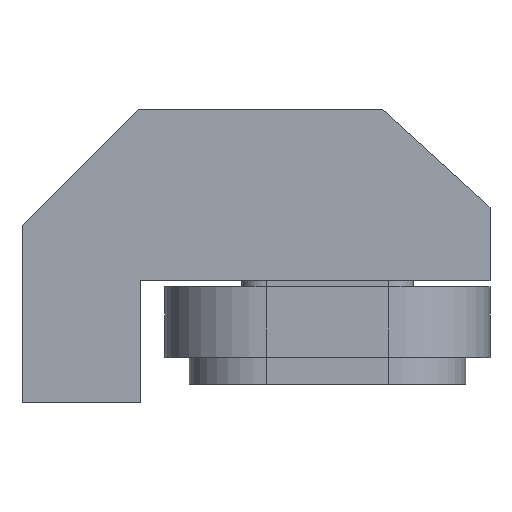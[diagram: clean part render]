
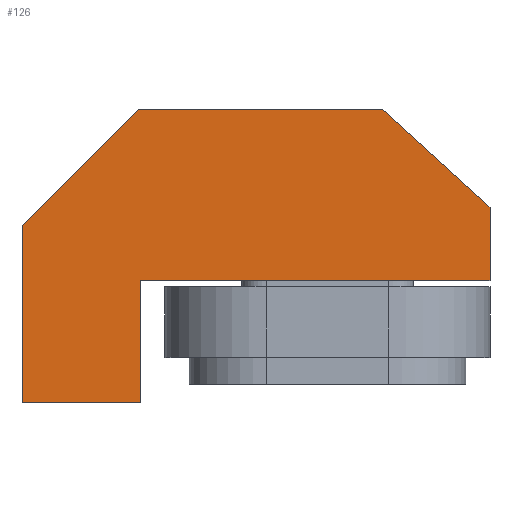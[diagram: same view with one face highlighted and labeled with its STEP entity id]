
A CAD part, top view. The second image highlights one B-rep face of the part: STEP entity #126.
In plain terms, the highlighted planar face has unit normal (0, 0, 1).
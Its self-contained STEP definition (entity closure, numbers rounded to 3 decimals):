
#126=ADVANCED_FACE('',(#197),#198,.T.);
#197=FACE_OUTER_BOUND('',#321,.T.);
#198=PLANE('',#322);
#321=EDGE_LOOP('',(#485,#486,#487,#488,#489,#490,#491,#492));
#322=AXIS2_PLACEMENT_3D('',#493,#494,#495);
#485=ORIENTED_EDGE('',*,*,#867,.F.);
#486=ORIENTED_EDGE('',*,*,#889,.F.);
#487=ORIENTED_EDGE('',*,*,#886,.F.);
#488=ORIENTED_EDGE('',*,*,#883,.F.);
#489=ORIENTED_EDGE('',*,*,#880,.F.);
#490=ORIENTED_EDGE('',*,*,#877,.F.);
#491=ORIENTED_EDGE('',*,*,#874,.F.);
#492=ORIENTED_EDGE('',*,*,#871,.F.);
#493=CARTESIAN_POINT('',(-82.01,131.047,103.0));
#494=DIRECTION('',(0.0,0.0,1.0));
#495=DIRECTION('',(1.0,0.0,0.0));
#867=EDGE_CURVE('',#993,#994,#995,.T.);
#871=EDGE_CURVE('',#994,#1001,#1002,.T.);
#874=EDGE_CURVE('',#1001,#1006,#1007,.T.);
#877=EDGE_CURVE('',#1006,#1011,#1012,.T.);
#880=EDGE_CURVE('',#1011,#1016,#1017,.T.);
#883=EDGE_CURVE('',#1016,#1021,#1022,.T.);
#886=EDGE_CURVE('',#1021,#1026,#1027,.T.);
#889=EDGE_CURVE('',#1026,#993,#1031,.T.);
#993=VERTEX_POINT('',#1203);
#994=VERTEX_POINT('',#1204);
#995=LINE('',#1205,#1206);
#1001=VERTEX_POINT('',#1215);
#1002=LINE('',#1216,#1217);
#1006=VERTEX_POINT('',#1223);
#1007=LINE('',#1224,#1225);
#1011=VERTEX_POINT('',#1231);
#1012=LINE('',#1232,#1233);
#1016=VERTEX_POINT('',#1239);
#1017=LINE('',#1240,#1241);
#1021=VERTEX_POINT('',#1247);
#1022=LINE('',#1248,#1249);
#1026=VERTEX_POINT('',#1255);
#1027=LINE('',#1256,#1257);
#1031=LINE('',#1263,#1264);
#1203=CARTESIAN_POINT('',(-250.0,145.0,103.0));
#1204=CARTESIAN_POINT('',(-155.0,240.0,103.0));
#1205=CARTESIAN_POINT('',(-250.0,145.0,103.0));
#1206=VECTOR('',#1519,1.0);
#1215=CARTESIAN_POINT('',(45.0,240.0,103.0));
#1216=CARTESIAN_POINT('',(-155.0,240.0,103.0));
#1217=VECTOR('',#1523,1.0);
#1223=CARTESIAN_POINT('',(133.0,160.0,103.0));
#1224=CARTESIAN_POINT('',(45.0,240.0,103.0));
#1225=VECTOR('',#1526,1.0);
#1231=CARTESIAN_POINT('',(133.0,100.0,103.0));
#1232=CARTESIAN_POINT('',(133.0,160.0,103.0));
#1233=VECTOR('',#1529,1.0);
#1239=CARTESIAN_POINT('',(-153.0,100.0,103.0));
#1240=CARTESIAN_POINT('',(133.0,100.0,103.0));
#1241=VECTOR('',#1532,1.0);
#1247=CARTESIAN_POINT('',(-153.0,0.0,103.0));
#1248=CARTESIAN_POINT('',(-153.0,100.0,103.0));
#1249=VECTOR('',#1535,1.0);
#1255=CARTESIAN_POINT('',(-250.0,0.0,103.0));
#1256=CARTESIAN_POINT('',(-153.0,0.0,103.0));
#1257=VECTOR('',#1538,1.0);
#1263=CARTESIAN_POINT('',(-250.0,0.0,103.0));
#1264=VECTOR('',#1541,1.0);
#1519=DIRECTION('',(0.707,0.707,0.0));
#1523=DIRECTION('',(1.0,0.0,0.0));
#1526=DIRECTION('',(0.74,-0.673,0.0));
#1529=DIRECTION('',(0.0,-1.0,0.0));
#1532=DIRECTION('',(-1.0,0.0,0.0));
#1535=DIRECTION('',(0.0,-1.0,0.0));
#1538=DIRECTION('',(-1.0,0.0,0.0));
#1541=DIRECTION('',(0.0,1.0,0.0));
